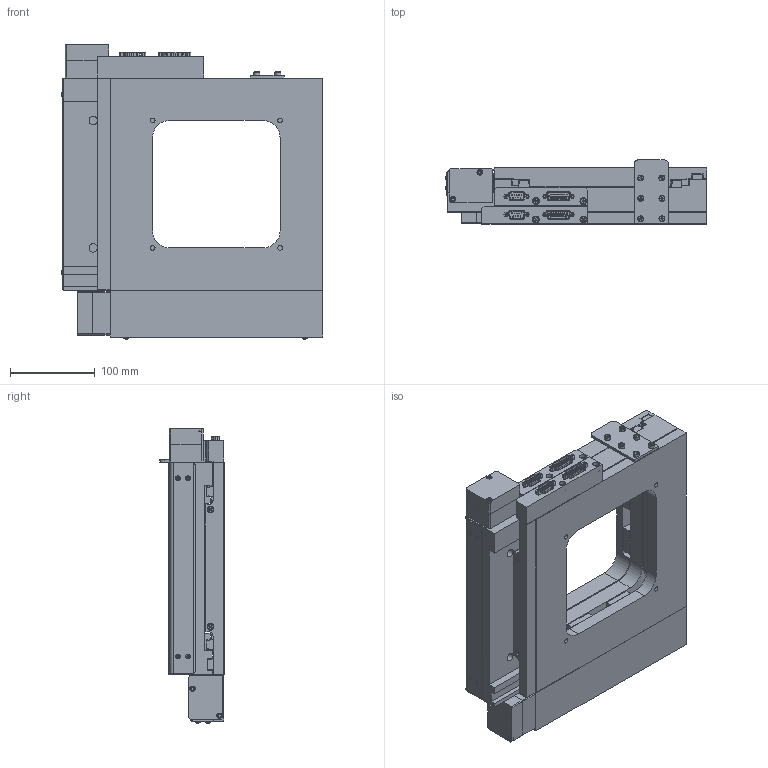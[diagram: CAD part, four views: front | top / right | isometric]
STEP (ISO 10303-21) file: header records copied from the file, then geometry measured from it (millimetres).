
FILE_DESCRIPTION (( 'STEP AP214' ), '1' );
FILE_NAME ('OXY-150-Linear Encoder-EXPORT.STEP', '2025-07-09T17:06:39', ( 'lab' ), ( '' ), 'SwSTEP 2.0', 'SolidWorks 2018', '' );
FILE_SCHEMA (( 'AUTOMOTIVE_DESIGN' ));
Length unit declared in the file: millimetre
Products named in the file (10): 1000009_file_export28; 1000008_file_export27; 1000006_file_export14; 1000002_file_export4; 1000005_file_export13; 1000004_file_export12; 1000010_file_export15; 1000003_file_export5; 1000001_file_export3; OXY-150-Linear Encoder-EXPORT
Assembly tree (24 placements, depth 2):
  OXY-150-Linear Encoder-EXPORT
    1000001_file_export3
    1000002_file_export4
    1000003_file_export5
    1000004_file_export12  x8
    1000005_file_export13  x2
    1000006_file_export14  x2
    1000008_file_export27  x2
    1000009_file_export28  x6
    1000010_file_export15
Bounding box: 307.41 x 75.5 x 346.41 mm (x, y, z)
Volume: 3936176.5 mm3; surface area: 724493.3 mm2
Topology: 137 solids, 137 shells, 2714 faces, 6265 edges, 3912 vertices
Faces by surface type: plane 1586, cylinder 588, bspline 340, cone 184, sphere 16
Entity records: 64145 total; most frequent: CARTESIAN_POINT 15330, DIRECTION 8778, ORIENTED_EDGE 8716, EDGE_CURVE 4358, AXIS2_PLACEMENT_3D 2951, LINE 2876, VECTOR 2876, VERTEX_POINT 2775
